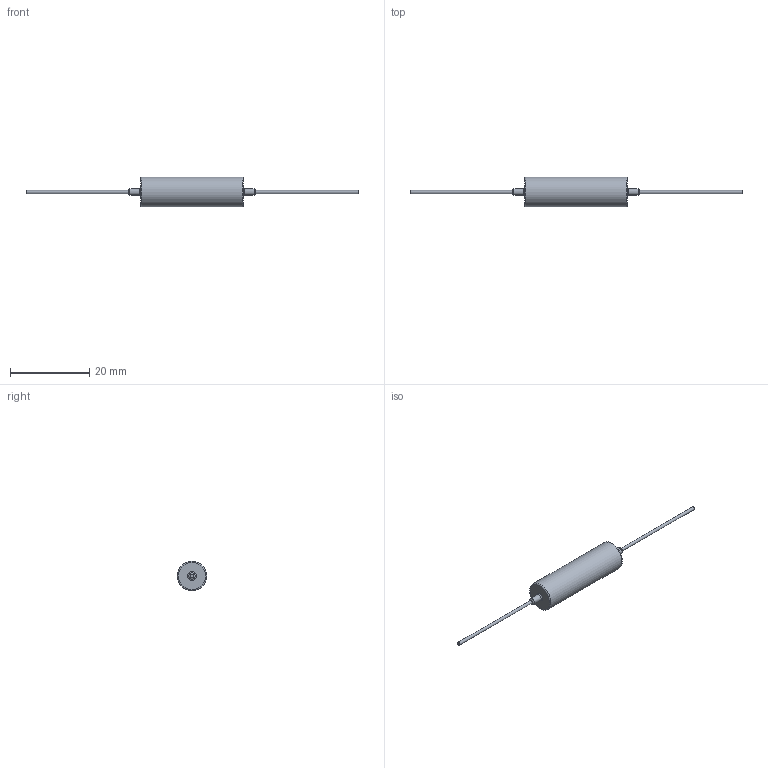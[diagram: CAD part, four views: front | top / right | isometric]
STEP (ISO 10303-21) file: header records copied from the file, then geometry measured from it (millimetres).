
FILE_DESCRIPTION((''),'2;1');
FILE_NAME('P:\Work\User\Special\CAD\Widerstand Serien\AC-Serie\axiale Ausführung\AC0700000XXXJAC00.stp','2015-10-26T07:36:28',('klepschi'),(''),'Autodesk Inventor 2013','Autodesk Inventor 2013','');
FILE_SCHEMA(('AUTOMOTIVE_DESIGN { 1 0 10303 214 1 1 1 1 }'));
Length unit declared in the file: millimetre
Products named in the file (1): AC0700000XXXJAC00
Bounding box: 84 x 7.5 x 7.5 mm (x, y, z)
Volume: 1186 mm3; surface area: 853.1 mm2
Topology: 1 solids, 1 shells, 17 faces, 27 edges, 16 vertices
Faces by surface type: torus 6, plane 6, cylinder 5
Full cylindrical faces by diameter (mm): 0.8 x2, 1.6 x2, 7.5 x1
Entity records: 380 total; most frequent: DIRECTION 68, CARTESIAN_POINT 50, AXIS2_PLACEMENT_3D 34, ORIENTED_EDGE 32, EDGE_LOOP 32, FACE_OUTER_BOUND 17, ADVANCED_FACE 17, VERTEX_POINT 16
